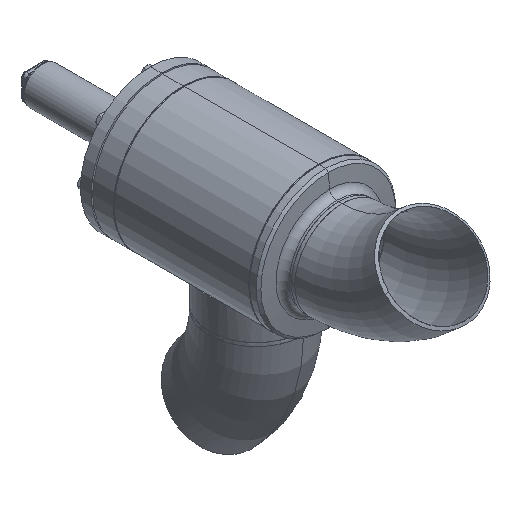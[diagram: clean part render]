
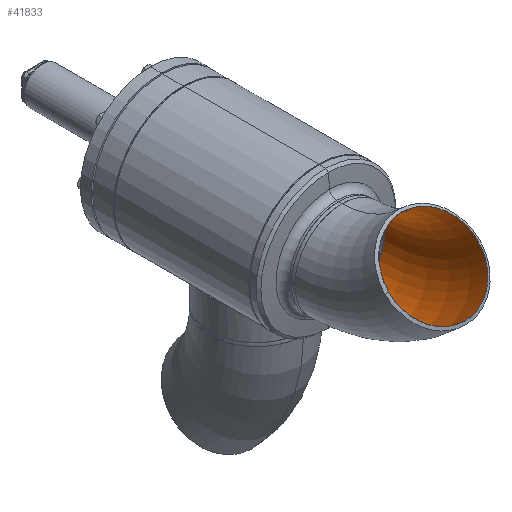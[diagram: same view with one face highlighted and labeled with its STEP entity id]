
A CAD part, isometric view. The second image highlights one B-rep face of the part: STEP entity #41833.
In plain terms, the highlighted toroidal (fillet/blend) face has major radius 305 mm and minor radius 103.25 mm.
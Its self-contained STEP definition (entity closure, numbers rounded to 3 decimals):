
#466 = CARTESIAN_POINT ( 'NONE',  ( 0., -103.25, 0. ) ) ;
#33258 = ORIENTED_EDGE ( 'NONE', *, *, #6002, .F. ) ;
#1085 = CIRCLE ( 'NONE', #1086, 103.25 ) ;
#1086 = AXIS2_PLACEMENT_3D ( 'NONE', #1120, #1121, #1122 ) ;
#1120 = CARTESIAN_POINT ( 'NONE',  ( 0., 0., 0. ) ) ;
#1121 = DIRECTION ( 'NONE',  ( 1., 0., 0. ) ) ;
#1122 = DIRECTION ( 'NONE',  ( 0., 0., -1. ) ) ;
#34675 = VERTEX_POINT ( 'NONE', #12460 ) ;
#35292 = EDGE_CURVE ( 'NONE', #37723, #34675, #36775, .T. ) ;
#3153 = EDGE_CURVE ( 'NONE', #38328, #5599, #44638, .T. ) ;
#36301 = ORIENTED_EDGE ( 'NONE', *, *, #35292, .T. ) ;
#36775 = CIRCLE ( 'NONE', #36776, 408.25 ) ;
#36776 = AXIS2_PLACEMENT_3D ( 'NONE', #36777, #36778, #36813 ) ;
#36777 = CARTESIAN_POINT ( 'NONE',  ( 0., -305., 0. ) ) ;
#36778 = DIRECTION ( 'NONE',  ( 0., 0., 1. ) ) ;
#36813 = DIRECTION ( 'NONE',  ( 1., 0., 0. ) ) ;
#4175 = ORIENTED_EDGE ( 'NONE', *, *, #3153, .F. ) ;
#37723 = VERTEX_POINT ( 'NONE', #9225 ) ;
#38328 = VERTEX_POINT ( 'NONE', #9633 ) ;
#5599 = VERTEX_POINT ( 'NONE', #466 ) ;
#6002 = EDGE_CURVE ( 'NONE', #5599, #34675, #1085, .T. ) ;
#38942 = EDGE_CURVE ( 'NONE', #38328, #37723, #14872, .T. ) ;
#39774 = ORIENTED_EDGE ( 'NONE', *, *, #38942, .T. ) ;
#41380 = EDGE_LOOP ( 'NONE', ( #39774, #36301, #33258, #4175 ) ) ;
#41471 = FACE_OUTER_BOUND ( 'NONE', #41380, .T. ) ;
#41472 = TOROIDAL_SURFACE ( 'NONE', #41473, 305., 103.25 ) ;
#41473 = AXIS2_PLACEMENT_3D ( 'NONE', #41474, #41475, #41476 ) ;
#41474 = CARTESIAN_POINT ( 'NONE',  ( 0., -305., 0. ) ) ;
#41475 = DIRECTION ( 'NONE',  ( 0., 0., 1. ) ) ;
#41476 = DIRECTION ( 'NONE',  ( 1., 0., 0. ) ) ;
#41833 = ADVANCED_FACE ( 'NONE', ( #41471 ), #41472, .F. ) ;
#9225 = CARTESIAN_POINT ( 'NONE',  ( 288.676, -16.324, 0. ) ) ;
#9633 = CARTESIAN_POINT ( 'NONE',  ( 142.659, -162.341, 0. ) ) ;
#44638 = CIRCLE ( 'NONE', #44639, 201.75 ) ;
#44639 = AXIS2_PLACEMENT_3D ( 'NONE', #44640, #44674, #44675 ) ;
#44640 = CARTESIAN_POINT ( 'NONE',  ( 0., -305., 0. ) ) ;
#44674 = DIRECTION ( 'NONE',  ( 0., 0., 1. ) ) ;
#44675 = DIRECTION ( 'NONE',  ( 1., 0., 0. ) ) ;
#12460 = CARTESIAN_POINT ( 'NONE',  ( 0., 103.25, 0. ) ) ;
#14872 = CIRCLE ( 'NONE', #14873, 103.25 ) ;
#14873 = AXIS2_PLACEMENT_3D ( 'NONE', #14874, #14875, #14876 ) ;
#14874 = CARTESIAN_POINT ( 'NONE',  ( 215.668, -89.332, 0. ) ) ;
#14875 = DIRECTION ( 'NONE',  ( 0.707, -0.707, 0. ) ) ;
#14876 = DIRECTION ( 'NONE',  ( 0., 0., -1. ) ) ;
